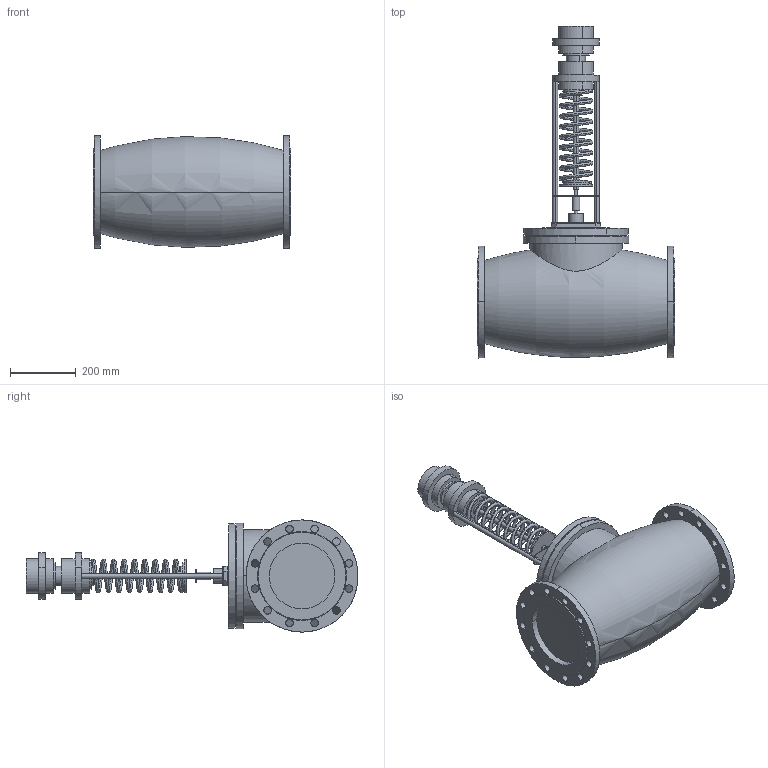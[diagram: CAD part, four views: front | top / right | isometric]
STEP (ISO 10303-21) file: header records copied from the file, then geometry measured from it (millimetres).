
FILE_DESCRIPTION (( 'STEP AP214' ), '1' );
FILE_NAME ('RDT-S, RDT-B DN-200 (0.1).STEP', '2025-12-12T09:49:46', ( '' ), ( '' ), 'SwSTEP 2.0', 'SolidWorks 2023', '' );
FILE_SCHEMA (( 'AUTOMOTIVE_DESIGN' ));
Length unit declared in the file: millimetre
Products named in the file (3): RDT-S, RDT-B DN-200 (0.1); RDT-S, RDT-B DN-150 (0.1); TRV-200-X-120
Assembly tree (2 placements, depth 2):
  RDT-S, RDT-B DN-200 (0.1)
    TRV-200-X-120
    RDT-S, RDT-B DN-150 (0.1)
Bounding box: 600.01 x 1006.65 x 340 mm (x, y, z)
Volume: 51747708.4 mm3; surface area: 1353123.6 mm2
Topology: 3 solids, 4 shells, 232 faces, 555 edges, 360 vertices
Faces by surface type: cylinder 130, plane 82, cone 16, torus 2, bspline 2
Entity records: 11168 total; most frequent: CARTESIAN_POINT 5367, DIRECTION 1284, ORIENTED_EDGE 1110, EDGE_CURVE 555, AXIS2_PLACEMENT_3D 519, VERTEX_POINT 360, EDGE_LOOP 315, CIRCLE 284
